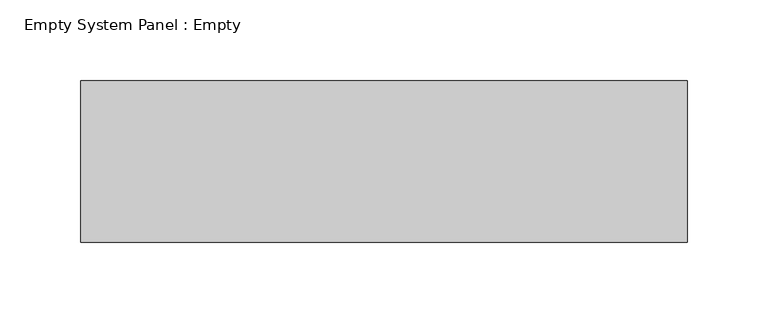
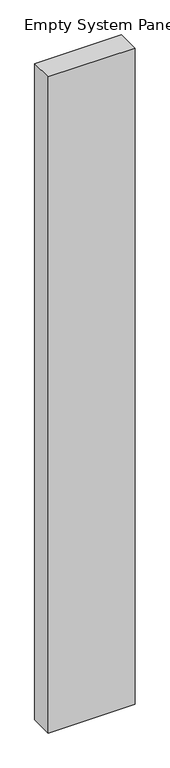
"""IFC4 building model written with IfcOpenShell, lengths in millimetres: plate geometry, Empty System Panel : Empty."""

import ifcopenshell
import ifcopenshell.guid

model = None  # the IFC model being written
_history = None  # IfcOwnerHistory: only IFC2X3 demands one
_inside = {}  # id of a spatial element -> (the spatial element, [elements in it])
_under = {}  # id of a project, library or spatial element -> (it, [spatial elements below it])
_declared = {}  # id of a project -> (the project, [libraries it declares])
_typed = {}  # id of a type object -> (the type object, [elements of that type])
_made_of = {}  # id of a material, layer set ... -> (it, [elements and type objects made of it])


def new_model(schema):
    """Start an empty IFC model of exactly this schema.

    Asked for "IFC4X3", IfcOpenShell would pick the latest addendum, in which some entities
    have other attributes; the version numbers below select the first issue.
    IFC2X3 requires an IfcOwnerHistory on every rooted entity: one is made here for all.
    """
    global model, _history
    if schema == "IFC4X3":
        model = ifcopenshell.file(schema_version=(4, 3, 0, 0))
    else:
        model = ifcopenshell.file(schema=schema)
    _inside.clear()
    _under.clear()
    _declared.clear()
    _typed.clear()
    _made_of.clear()
    _history = None
    if model.schema == "IFC2X3":
        org = make("IfcOrganization", Name="unknown")
        user = make(
            "IfcPersonAndOrganization",
            ThePerson=make("IfcPerson", FamilyName="unknown"),
            TheOrganization=org,
        )
        app = make(
            "IfcApplication",
            ApplicationDeveloper=org,
            Version="unknown",
            ApplicationFullName="unknown",
            ApplicationIdentifier="unknown",
        )
        _history = make(
            "IfcOwnerHistory",
            OwningUser=user,
            OwningApplication=app,
            ChangeAction="ADDED",
            CreationDate=0,
        )
    return model


def make(cls, **values):
    """One entity of the class cls with the attributes given. An attribute that is None is left unset."""
    return model.create_entity(
        cls, **{name: value for name, value in values.items() if value is not None}
    )


def rooted(cls, **values):
    """An entity with a GlobalId (a new one), such as an element, a storey or a relation."""
    return make(cls, GlobalId=ifcopenshell.guid.new(), OwnerHistory=_history, **values)


def si_unit(unit_type, name, prefix=None):
    """IfcSIUnit, for example si_unit("LENGTHUNIT", "METRE", prefix="MILLI")."""
    return make("IfcSIUnit", UnitType=unit_type, Prefix=prefix, Name=name)


def assignment(units):
    """IfcUnitAssignment: the units of a project."""
    return None if units is None else make("IfcUnitAssignment", Units=units)


def point(xyz):
    """IfcCartesianPoint."""
    return None if xyz is None else make("IfcCartesianPoint", Coordinates=xyz)


def direction(xyz):
    """IfcDirection."""
    return None if xyz is None else make("IfcDirection", DirectionRatios=xyz)


def frame(location, z_axis=None, x_axis=None):
    """IfcAxis2Placement3D, a coordinate frame: its origin and axes. An axis left out is left unset."""
    return make(
        "IfcAxis2Placement3D",
        Location=point(location),
        Axis=direction(z_axis),
        RefDirection=direction(x_axis),
    )


def origin():
    """The frame at (0, 0, 0) with its axes left unset."""
    return frame((0.0, 0.0, 0.0))


def origin_with_axes():
    """The frame at (0, 0, 0) with the z axis (0, 0, 1) and the x axis (1, 0, 0) written out."""
    return frame((0.0, 0.0, 0.0), z_axis=(0.0, 0.0, 1.0), x_axis=(1.0, 0.0, 0.0))


def place(relative_to, where):
    """IfcLocalPlacement: puts the frame where relative to a parent placement (None: the world)."""
    return make(
        "IfcLocalPlacement", PlacementRelTo=relative_to, RelativePlacement=where
    )


def context(
    kind, dimensions, precision=None, world=None, true_north=None, identifier=None
):
    """IfcGeometricRepresentationContext, for example the 3D "Model" context."""
    return make(
        "IfcGeometricRepresentationContext",
        ContextIdentifier=identifier,
        ContextType=kind,
        CoordinateSpaceDimension=dimensions,
        Precision=precision,
        WorldCoordinateSystem=world,
        TrueNorth=true_north,
    )


def project(units=None, contexts=None):
    """IfcProject with its units and contexts."""
    return rooted(
        "IfcProject",
        Name="project",
        RepresentationContexts=contexts,
        UnitsInContext=assignment(units),
    )


def spatial(cls, under=None, at=None, **own):
    """A site, building, storey or space (cls), placed at a placement, below another one or the project."""
    s = rooted(cls, ObjectPlacement=at, **own)
    if under is not None:
        _under.setdefault(under.id(), (under, []))[1].append(s)
    return s


def polyline(points):
    """IfcPolyline through the points."""
    return make("IfcPolyline", Points=[point(p) for p in points])


def outline(outer, holes=None, kind="AREA"):
    """IfcArbitraryClosedProfileDef: a profile drawn as a closed curve; with holes, ...WithVoids."""
    if holes is None:
        return make("IfcArbitraryClosedProfileDef", ProfileType=kind, OuterCurve=outer)
    return make(
        "IfcArbitraryProfileDefWithVoids",
        ProfileType=kind,
        OuterCurve=outer,
        InnerCurves=holes,
    )


def extrude(swept, where, along, depth):
    """IfcExtrudedAreaSolid: the profile swept, set in the frame where, extruded along a direction by depth."""
    return make(
        "IfcExtrudedAreaSolid",
        SweptArea=swept,
        Position=where,
        ExtrudedDirection=direction(along),
        Depth=depth,
    )


def shape(context_of_items, identifier, shape_type, items):
    """IfcShapeRepresentation: the items that make up one representation, for example the "Body"."""
    return make(
        "IfcShapeRepresentation",
        ContextOfItems=context_of_items,
        RepresentationIdentifier=identifier,
        RepresentationType=shape_type,
        Items=items,
    )


def source(mapping_origin, context_of_items, identifier, shape_type, items):
    """IfcRepresentationMap: a shape defined once, which mapped items show again and again."""
    return make(
        "IfcRepresentationMap",
        MappingOrigin=mapping_origin,
        MappedRepresentation=shape(context_of_items, identifier, shape_type, items),
    )


def transform(
    local_origin,
    x_axis=None,
    y_axis=None,
    z_axis=None,
    scale=None,
    scale2=None,
    scale3=None,
    uniform=True,
):
    """IfcCartesianTransformationOperator3D, or its non-uniform kind. x_axis, y_axis, z_axis: its Axis1, 2, 3."""
    if uniform:
        return make(
            "IfcCartesianTransformationOperator3D",
            Axis1=direction(x_axis),
            Axis2=direction(y_axis),
            LocalOrigin=point(local_origin),
            Scale=scale,
            Axis3=direction(z_axis),
        )
    return make(
        "IfcCartesianTransformationOperator3DnonUniform",
        Axis1=direction(x_axis),
        Axis2=direction(y_axis),
        LocalOrigin=point(local_origin),
        Scale=scale,
        Axis3=direction(z_axis),
        Scale2=scale2,
        Scale3=scale3,
    )


def mapped(mapping_source, mapping_target):
    """IfcMappedItem: shows the shape of a source again, moved by a transform."""
    return make(
        "IfcMappedItem", MappingSource=mapping_source, MappingTarget=mapping_target
    )


def made_of(thing, what):
    """Note that an element or type object is made of a material, layer set ...; save() writes the relation."""
    if what is not None:
        _made_of.setdefault(what.id(), (what, []))[1].append(thing)
    return thing


def element(
    cls,
    number,
    at=None,
    inside=None,
    cuts=None,
    type_object=None,
    material=None,
    context=None,
    identifier="Body",
    shape_type=None,
    held_by="IfcProductDefinitionShape",
    body=None,
    shapes=None,
    **own,
):
    """One element of the class cls, such as IfcWall. Its Tag is "e" and its number.

    at: its placement. inside: the storey or other place that contains it. cuts: it is an
    opening in that element (IfcRelVoidsElement). A single representation is given by context,
    identifier, shape_type and body (its items); several are given by shapes. held_by: the class
    of the entity that holds the representations. save() writes the other relations.
    """
    e = rooted(cls, Tag="e%d" % number, ObjectPlacement=at, **own)
    if body is not None:
        shapes = [shape(context, identifier, shape_type, body)]
    if shapes is not None:
        e.Representation = make(held_by, Representations=shapes)
    if inside is not None:
        _inside.setdefault(inside.id(), (inside, []))[1].append(e)
    if cuts is not None:
        rooted(
            "IfcRelVoidsElement", RelatingBuildingElement=cuts, RelatedOpeningElement=e
        )
    if type_object is not None:
        _typed.setdefault(type_object.id(), (type_object, []))[1].append(e)
    return made_of(e, material)


def aggregate(whole, parts):
    """IfcRelAggregates: a whole, such as a stair, and the parts it consists of."""
    return rooted("IfcRelAggregates", RelatingObject=whole, RelatedObjects=parts)


def save(model, path):
    """Write the relations noted so far, then the file.

    IfcRelAggregates (storeys below a building ...), IfcRelContainedInSpatialStructure (elements
    in a storey), IfcRelDefinesByType, IfcRelAssociatesMaterial and IfcRelDeclares: one each for
    every whole, place, type object, material and project.
    """
    for whole, parts in _under.values():
        aggregate(whole, parts)
    for where, things in _inside.values():
        rooted(
            "IfcRelContainedInSpatialStructure",
            RelatedElements=things,
            RelatingStructure=where,
        )
    for kind, things in _typed.values():
        rooted("IfcRelDefinesByType", RelatedObjects=things, RelatingType=kind)
    for what, things in _made_of.values():
        rooted("IfcRelAssociatesMaterial", RelatedObjects=things, RelatingMaterial=what)
    for by, libraries in _declared.values():
        rooted("IfcRelDeclares", RelatingContext=by, RelatedDefinitions=libraries)
    model.write(path)


def empty_system_panel_empty_6b42ee64(model_context):
    return source(origin(), model_context, "Body", "SweptSolid", [
        extrude(outline(polyline([(188.0, -50.0), (-188.0, -50.0), (-188.0, 50.0), (188.0, 50.0), (188.0, -50.0)])), origin_with_axes(), (0.0, 0.0, 1.0), 3000.0),
    ])


if __name__ == "__main__":
    model = new_model("IFC4")
    model_context = context("Model", 3, world=origin())
    ifc_project = project(units=[si_unit("LENGTHUNIT", "METRE", prefix="MILLI")], contexts=[model_context])
    site = spatial("IfcSite", under=ifc_project)
    building = spatial("IfcBuilding", under=site)
    placement = place(None, origin())
    empty_system_panel_empty_shape = empty_system_panel_empty_6b42ee64(model_context)
    element("IfcPlate", 1, ObjectType="Empty System Panel : Empty", at=placement, inside=building, context=model_context, shape_type="MappedRepresentation", body=[
        mapped(empty_system_panel_empty_shape, transform((0.0, 0.0, 0.0), x_axis=(1.0, 0.0, 0.0), y_axis=(0.0, 1.0, 0.0), z_axis=(0.0, 0.0, 1.0))),
    ])
    save(model, "model.ifc")
